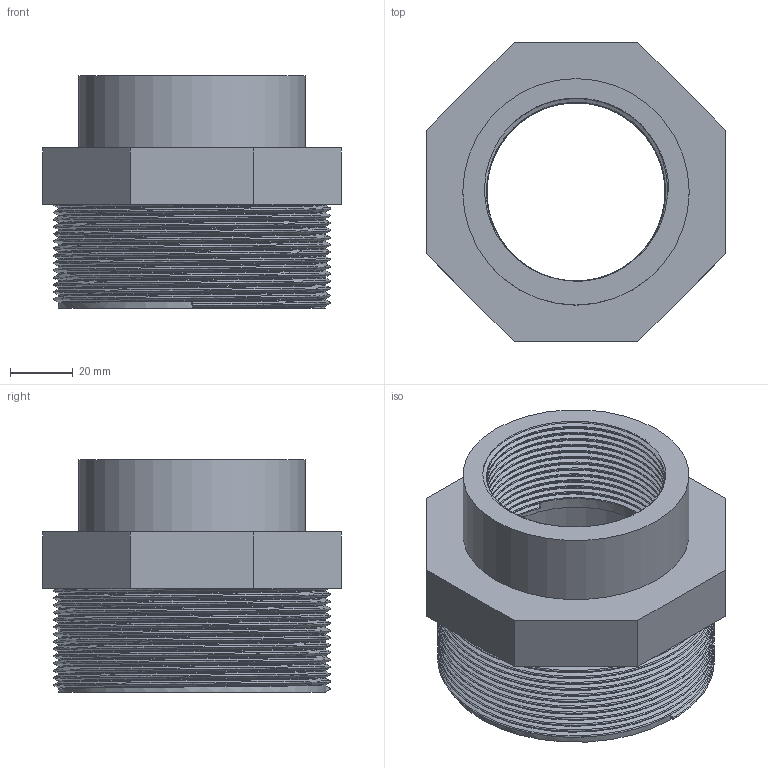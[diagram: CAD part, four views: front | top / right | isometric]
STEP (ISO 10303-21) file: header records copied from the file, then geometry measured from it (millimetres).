
FILE_DESCRIPTION(/* description */ (''),/* implementation_level */ '2;1');
FILE_NAME(/* name */ 'C:\Users\POLYPIPE\Desktop\DATASET INVENTOR\LIBRERIA EFFAST\RACCORDI 3DxWEB\RER\3D_RERRIE\3D_RERRIE090G.stp',/* time_stamp */ '2018-01-19T17:13:32+01:00',/* author */ ('POLYPIPE'),/* organization */ ('Polypipe Italia'),/* preprocessor_version */ 'ST-DEVELOPER v16.1',/* originating_system */ 'Autodesk Inventor 2016',/* authorisation */ '');
FILE_SCHEMA (('CONFIG_CONTROL_DESIGN'));
Length unit declared in the file: millimetre
Products named in the file (1): 3D_RERRIE090G
Bounding box: 95 x 95 x 74 mm (x, y, z)
Volume: 161834.9 mm3; surface area: 54910.4 mm2
Topology: 1 solids, 1 shells, 29 faces, 68 edges, 44 vertices
Faces by surface type: plane 15, bspline 10, cylinder 4
Full cylindrical faces by diameter (mm): 56.656 x1, 72 x1, 73 x1, 84.926 x1
Entity records: 11285 total; most frequent: CARTESIAN_POINT 10670, ORIENTED_EDGE 128, DIRECTION 94, EDGE_CURVE 64, VERTEX_POINT 43, EDGE_LOOP 37, AXIS2_PLACEMENT_3D 32, LINE 30
